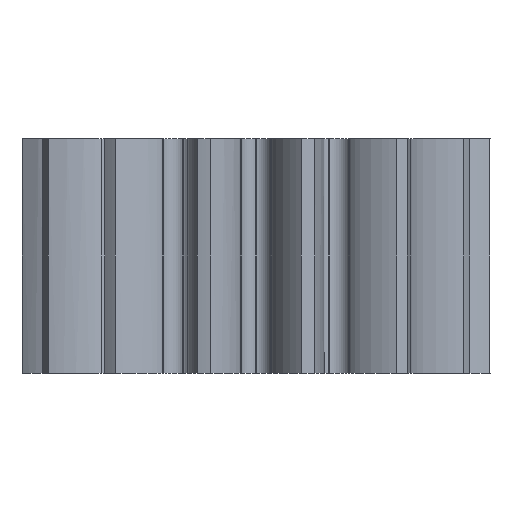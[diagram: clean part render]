
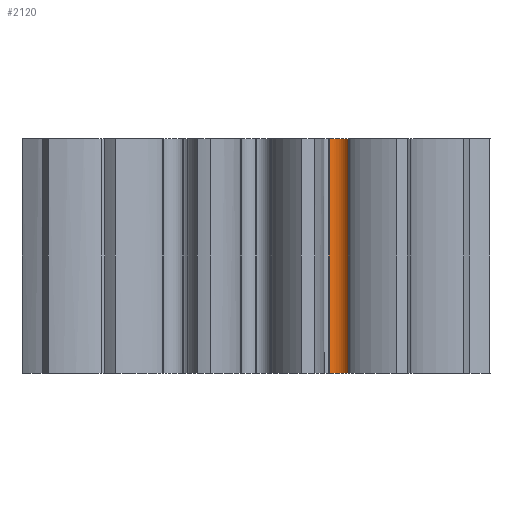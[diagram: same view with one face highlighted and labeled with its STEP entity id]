
A CAD part, front view. The second image highlights one B-rep face of the part: STEP entity #2120.
In plain terms, the highlighted cylindrical face has radius 0.5 mm (diameter 1 mm), a partial arc.
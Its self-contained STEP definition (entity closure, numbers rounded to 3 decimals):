
#156=FACE_OUTER_BOUND('',#270,.T.);
#270=EDGE_LOOP('',(#1533,#1534,#1535,#1536));
#415=LINE('',#5850,#583);
#416=LINE('',#5853,#584);
#583=VECTOR('',#2670,10.);
#584=VECTOR('',#2673,10.);
#718=CIRCLE('',#2289,0.5);
#770=CIRCLE('',#2345,0.5);
#843=VERTEX_POINT('',#3863);
#844=VERTEX_POINT('',#3865);
#944=VERTEX_POINT('',#5849);
#945=VERTEX_POINT('',#5851);
#1074=EDGE_CURVE('',#844,#843,#718,.T.);
#1178=EDGE_CURVE('',#843,#944,#415,.T.);
#1179=EDGE_CURVE('',#944,#945,#770,.T.);
#1180=EDGE_CURVE('',#945,#844,#416,.T.);
#1533=ORIENTED_EDGE('',*,*,#1074,.T.);
#1534=ORIENTED_EDGE('',*,*,#1178,.T.);
#1535=ORIENTED_EDGE('',*,*,#1179,.T.);
#1536=ORIENTED_EDGE('',*,*,#1180,.T.);
#2058=CYLINDRICAL_SURFACE('',#2344,0.5);
#2120=ADVANCED_FACE('',(#156),#2058,.F.);
#2289=AXIS2_PLACEMENT_3D('',#3866,#2530,#2531);
#2344=AXIS2_PLACEMENT_3D('',#5848,#2668,#2669);
#2345=AXIS2_PLACEMENT_3D('',#5852,#2671,#2672);
#2530=DIRECTION('center_axis',(0.,0.,-1.));
#2531=DIRECTION('ref_axis',(0.289,0.957,0.));
#2668=DIRECTION('center_axis',(0.,0.,1.));
#2669=DIRECTION('ref_axis',(0.289,0.957,0.));
#2670=DIRECTION('',(0.,0.,1.));
#2671=DIRECTION('center_axis',(0.,0.,1.));
#2672=DIRECTION('ref_axis',(0.289,0.957,0.));
#2673=DIRECTION('',(0.,0.,-1.));
#3863=CARTESIAN_POINT('',(3.154,-5.37,0.));
#3865=CARTESIAN_POINT('',(2.505,-5.175,0.));
#3866=CARTESIAN_POINT('Origin',(2.723,-5.625,0.));
#5848=CARTESIAN_POINT('Origin',(2.723,-5.625,0.));
#5849=CARTESIAN_POINT('',(3.154,-5.37,8.));
#5850=CARTESIAN_POINT('',(3.154,-5.37,0.));
#5851=CARTESIAN_POINT('',(2.505,-5.175,8.));
#5852=CARTESIAN_POINT('Origin',(2.723,-5.625,8.));
#5853=CARTESIAN_POINT('',(2.505,-5.175,0.));
